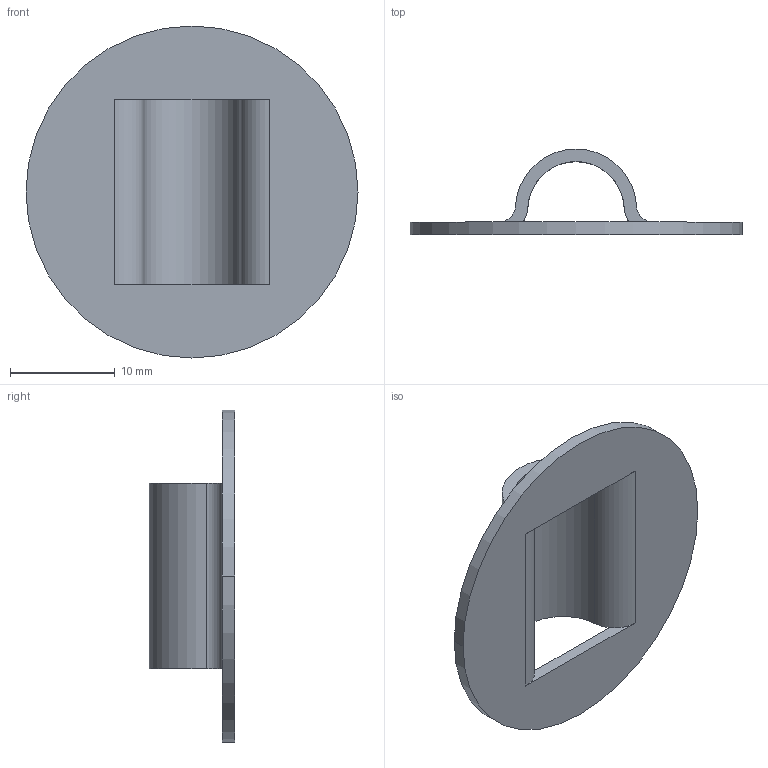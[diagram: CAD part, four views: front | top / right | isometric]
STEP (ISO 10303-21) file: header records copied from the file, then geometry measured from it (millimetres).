
FILE_DESCRIPTION (( 'STEP AP203' ), '1' );
FILE_NAME ('695862-10.STEP', '2024-11-14T17:33:53', ( '' ), ( '' ), 'SwSTEP 2.0', 'SolidWorks 2024', '' );
FILE_SCHEMA (( 'CONFIG_CONTROL_DESIGN' ));
Length unit declared in the file: inch
Products named in the file (1): 695862-10
Bounding box: 31.75 x 8.18 x 31.75 mm (x, y, z)
Volume: 1107.3 mm3; surface area: 2047.6 mm2
Topology: 1 solids, 1 shells, 14 faces, 38 edges, 24 vertices
Faces by surface type: cylinder 8, plane 6
Entity records: 537 total; most frequent: DIRECTION 88, CARTESIAN_POINT 77, ORIENTED_EDGE 76, EDGE_CURVE 38, AXIS2_PLACEMENT_3D 35, VERTEX_POINT 24, CIRCLE 20, VECTOR 18
